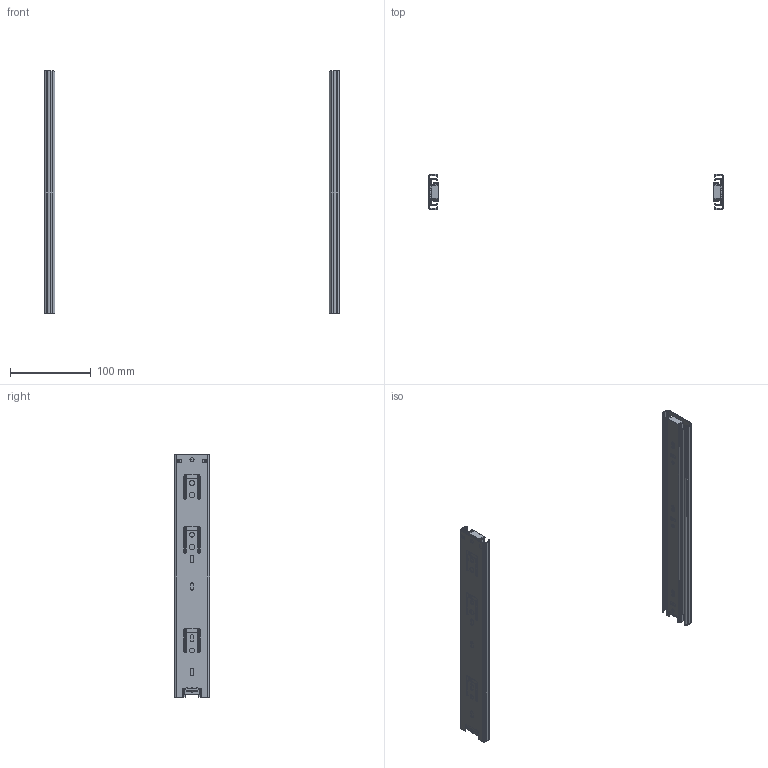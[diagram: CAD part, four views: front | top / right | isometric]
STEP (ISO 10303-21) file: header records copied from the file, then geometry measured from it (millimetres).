
FILE_DESCRIPTION(/* description */ (''),/* implementation_level */ '2;1');
FILE_NAME(/* name */ 'D:\$Workingspace\Designs\Katalog\Cadsoft\GTV Prowadnice\Prowadnice GTV_bryły 3D\PK-0H45300GX1.stp',/* time_stamp */ '2016-11-22T12:14:10+01:00',/* author */ ('tomaszw'),/* organization */ (''),/* preprocessor_version */ 'ST-DEVELOPER v16.1',/* originating_system */ 'Autodesk Inventor 2016',/* authorisation */ '');
FILE_SCHEMA (('AUTOMOTIVE_DESIGN { 1 0 10303 214 3 1 1 }'));
Length unit declared in the file: millimetre
Products named in the file (5): Blokada_5; PK-0H45_1-300-GX1; PK-0H45_2-300-GX1; PK-0H45_3-300-GX1; PK-0H45-_-GX1
Assembly tree (8 placements, depth 2):
  PK-0H45-_-GX1
    Blokada_5  x2
    PK-0H45_1-300-GX1  x2
    PK-0H45_2-300-GX1  x2
    PK-0H45_3-300-GX1  x2
Bounding box: 364 x 43.8 x 300 mm (x, y, z)
Volume: 87679 mm3; surface area: 178578.2 mm2
Topology: 8 solids, 8 shells, 468 faces, 1348 edges, 896 vertices
Faces by surface type: cylinder 236, plane 228, cone 4
Full cylindrical faces by diameter (mm): 4.5 x6, 5 x2, 6 x6, 7 x4
Entity records: 8199 total; most frequent: CARTESIAN_POINT 1386, DIRECTION 1385, ORIENTED_EDGE 1330, EDGE_CURVE 665, AXIS2_PLACEMENT_3D 481, VERTEX_POINT 448, LINE 423, VECTOR 423
